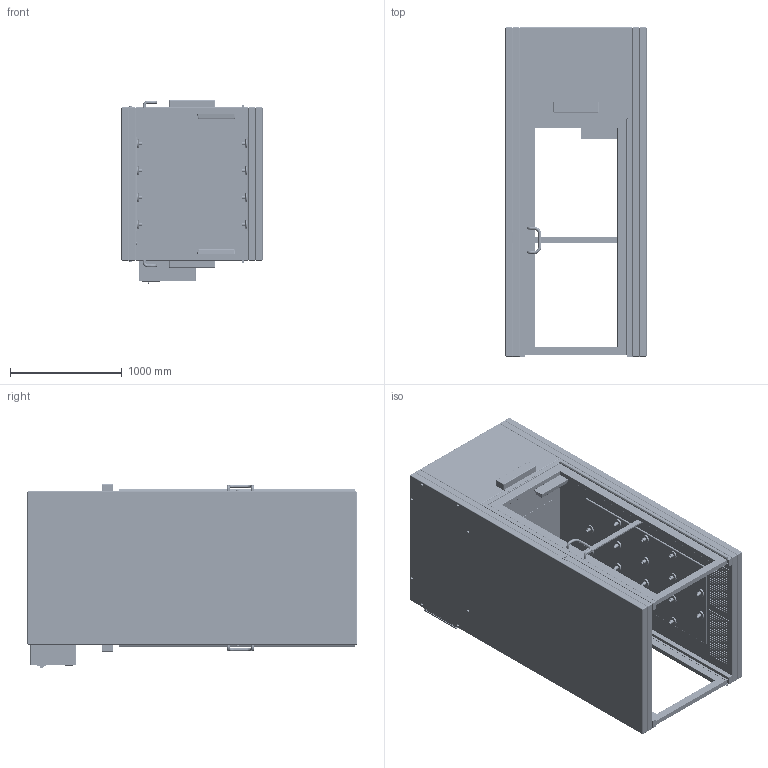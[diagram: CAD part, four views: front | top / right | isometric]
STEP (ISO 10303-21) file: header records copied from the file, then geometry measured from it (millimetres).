
FILE_DESCRIPTION (( 'STEP AP203' ), '1' );
FILE_NAME ('004071.STEP', '2014-03-31T16:04:49', ( 'peter' ), ( '' ), 'SwSTEP 2.0', 'SolidWorks 2011', '' );
FILE_SCHEMA (( 'CONFIG_CONTROL_DESIGN' ));
Length unit declared in the file: inch
Products named in the file (8): 004071; 005956; 004047; 004048; 004036; 004026; 004021; 004041
Assembly tree (7 placements, depth 2):
  004071
    004041
    004021
    004036
    005956
    004026
    004048
    004047
Bounding box: 1262.06 x 2948.94 x 1641.5 mm (x, y, z)
Volume: 1365835199.3 mm3; surface area: 39623572.2 mm2
Topology: 7 solids, 8 shells, 3690 faces, 7910 edges, 5070 vertices
Faces by surface type: cylinder 1897, plane 1344, torus 286, bspline 115, sphere 48
Entity records: 107796 total; most frequent: CARTESIAN_POINT 23861, DIRECTION 18924, ORIENTED_EDGE 15740, EDGE_CURVE 7870, AXIS2_PLACEMENT_3D 7801, VERTEX_POINT 5070, EDGE_LOOP 4600, CIRCLE 4216
